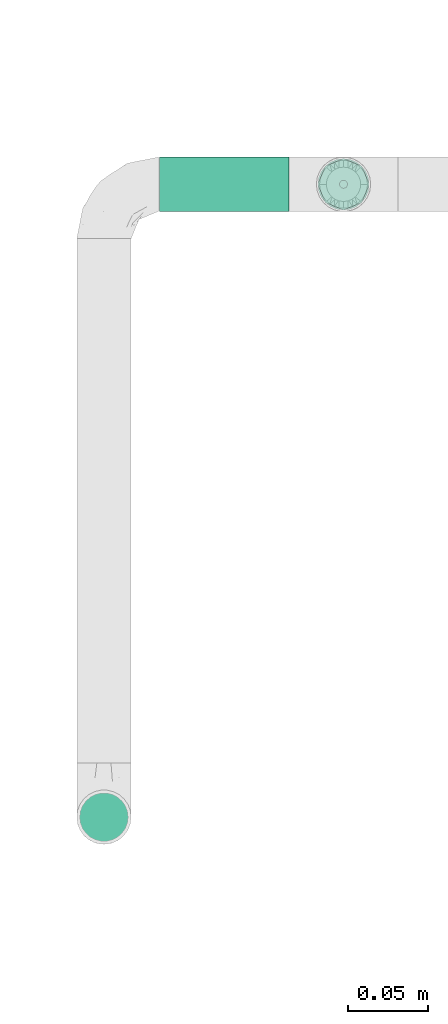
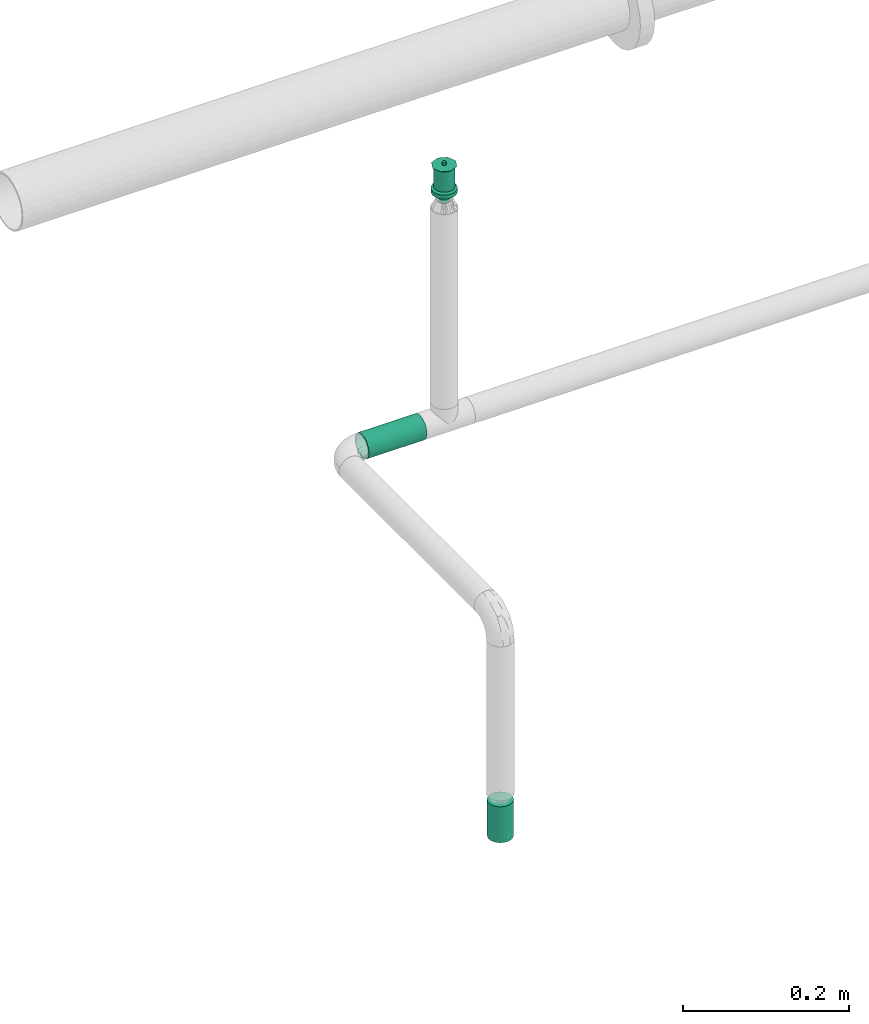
# One storey, part 105 of 157: 2 flow terminals, 1 flow segment.
"""IFC2X3 building model written with IfcOpenShell, lengths in millimetres."""

import ifcopenshell
import ifcopenshell.guid

model = None  # the IFC model being written
_history = None  # IfcOwnerHistory: only IFC2X3 demands one
_inside = {}  # id of a spatial element -> (the spatial element, [elements in it])
_under = {}  # id of a project, library or spatial element -> (it, [spatial elements below it])
_declared = {}  # id of a project -> (the project, [libraries it declares])
_typed = {}  # id of a type object -> (the type object, [elements of that type])
_made_of = {}  # id of a material, layer set ... -> (it, [elements and type objects made of it])


def new_model(schema):
    """Start an empty IFC model of exactly this schema.

    Asked for "IFC4X3", IfcOpenShell would pick the latest addendum, in which some entities
    have other attributes; the version numbers below select the first issue.
    IFC2X3 requires an IfcOwnerHistory on every rooted entity: one is made here for all.
    """
    global model, _history
    if schema == "IFC4X3":
        model = ifcopenshell.file(schema_version=(4, 3, 0, 0))
    else:
        model = ifcopenshell.file(schema=schema)
    _inside.clear()
    _under.clear()
    _declared.clear()
    _typed.clear()
    _made_of.clear()
    _history = None
    if model.schema == "IFC2X3":
        org = make("IfcOrganization", Name="unknown")
        user = make(
            "IfcPersonAndOrganization",
            ThePerson=make("IfcPerson", FamilyName="unknown"),
            TheOrganization=org,
        )
        app = make(
            "IfcApplication",
            ApplicationDeveloper=org,
            Version="unknown",
            ApplicationFullName="unknown",
            ApplicationIdentifier="unknown",
        )
        _history = make(
            "IfcOwnerHistory",
            OwningUser=user,
            OwningApplication=app,
            ChangeAction="ADDED",
            CreationDate=0,
        )
    return model


def make(cls, **values):
    """One entity of the class cls with the attributes given. An attribute that is None is left unset."""
    return model.create_entity(
        cls, **{name: value for name, value in values.items() if value is not None}
    )


def entity(cls, *values):
    """Any entity or typed value of the class cls, its attributes in the order of the schema. None: left unset."""
    e = model.create_entity(cls)
    for i, value in enumerate(values):
        if value is not None:
            e[i] = value
    return e


def rooted(cls, **values):
    """An entity with a GlobalId (a new one), such as an element, a storey or a relation."""
    return make(cls, GlobalId=ifcopenshell.guid.new(), OwnerHistory=_history, **values)


def si_unit(unit_type, name, prefix=None):
    """IfcSIUnit, for example si_unit("LENGTHUNIT", "METRE", prefix="MILLI")."""
    return make("IfcSIUnit", UnitType=unit_type, Prefix=prefix, Name=name)


def converted_unit(unit_type, name, factor, base, dimensions=None, offset=None):
    """IfcConversionBasedUnit, such as the inch: factor (a typed value) times the base unit."""
    return make(
        "IfcConversionBasedUnit"
        if offset is None
        else "IfcConversionBasedUnitWithOffset",
        ConversionOffset=offset,
        Dimensions=None
        if dimensions is None
        else entity("IfcDimensionalExponents", *dimensions),
        UnitType=unit_type,
        Name=name,
        ConversionFactor=make(
            "IfcMeasureWithUnit", ValueComponent=factor, UnitComponent=base
        ),
    )


def derived_unit(unit_type, elements):
    """IfcDerivedUnit: a product of units, each with its exponent."""
    return make(
        "IfcDerivedUnit",
        Elements=[
            make("IfcDerivedUnitElement", Unit=unit, Exponent=power)
            for unit, power in elements
        ],
        UnitType=unit_type,
    )


def assignment(units):
    """IfcUnitAssignment: the units of a project."""
    return None if units is None else make("IfcUnitAssignment", Units=units)


def point(xyz):
    """IfcCartesianPoint."""
    return None if xyz is None else make("IfcCartesianPoint", Coordinates=xyz)


def direction(xyz):
    """IfcDirection."""
    return None if xyz is None else make("IfcDirection", DirectionRatios=xyz)


def frame(location, z_axis=None, x_axis=None):
    """IfcAxis2Placement3D, a coordinate frame: its origin and axes. An axis left out is left unset."""
    return make(
        "IfcAxis2Placement3D",
        Location=point(location),
        Axis=direction(z_axis),
        RefDirection=direction(x_axis),
    )


def frame_2d(location, x_axis=None):
    """IfcAxis2Placement2D, a coordinate frame in the plane: its origin and x axis."""
    return make(
        "IfcAxis2Placement2D", Location=point(location), RefDirection=direction(x_axis)
    )


def origin_with_axes():
    """The frame at (0, 0, 0) with the z axis (0, 0, 1) and the x axis (1, 0, 0) written out."""
    return frame((0.0, 0.0, 0.0), z_axis=(0.0, 0.0, 1.0), x_axis=(1.0, 0.0, 0.0))


def origin_2d_with_axis():
    """The frame at (0, 0) in the plane with the x axis (1, 0) written out."""
    return frame_2d((0.0, 0.0), x_axis=(1.0, 0.0))


def place(relative_to, where):
    """IfcLocalPlacement: puts the frame where relative to a parent placement (None: the world)."""
    return make(
        "IfcLocalPlacement", PlacementRelTo=relative_to, RelativePlacement=where
    )


def context(
    kind, dimensions, precision=None, world=None, true_north=None, identifier=None
):
    """IfcGeometricRepresentationContext, for example the 3D "Model" context."""
    return make(
        "IfcGeometricRepresentationContext",
        ContextIdentifier=identifier,
        ContextType=kind,
        CoordinateSpaceDimension=dimensions,
        Precision=precision,
        WorldCoordinateSystem=world,
        TrueNorth=true_north,
    )


def subcontext(parent, identifier, kind, view, scale=None):
    """IfcGeometricRepresentationSubContext, for example "Body" below "Model"."""
    return make(
        "IfcGeometricRepresentationSubContext",
        ContextIdentifier=identifier,
        ContextType=kind,
        ParentContext=parent,
        TargetScale=scale,
        TargetView=view,
    )


def project(units=None, contexts=None):
    """IfcProject with its units and contexts."""
    return rooted(
        "IfcProject",
        Name="project",
        RepresentationContexts=contexts,
        UnitsInContext=assignment(units),
    )


def spatial(cls, under=None, at=None, **own):
    """A site, building, storey or space (cls), placed at a placement, below another one or the project."""
    s = rooted(cls, ObjectPlacement=at, **own)
    if under is not None:
        _under.setdefault(under.id(), (under, []))[1].append(s)
    return s


def profile(cls, at=None, kind="AREA", **sizes):
    """A parametric profile (cls). Its sizes go by their IFC names, for example OverallWidth=200.0."""
    return make(cls, ProfileType=kind, Position=at, **sizes)


def hollow_circle(**sizes):
    """IfcCircleHollowProfileDef."""
    return profile("IfcCircleHollowProfileDef", **sizes)


def extrude(swept, where, along, depth):
    """IfcExtrudedAreaSolid: the profile swept, set in the frame where, extruded along a direction by depth."""
    return make(
        "IfcExtrudedAreaSolid",
        SweptArea=swept,
        Position=where,
        ExtrudedDirection=direction(along),
        Depth=depth,
    )


def faces_of(points, faces, orient=None, outer=None):
    """IfcFace entities. A face is a list of loops; a loop is a list of indices into points, from 0.

    orient and outer hold one flag for each loop. By default every Orientation is true, the
    first loop of a face is its IfcFaceOuterBound and the others are IfcFaceBound.
    """
    made = []
    for i, loops in enumerate(faces):
        bounds = []
        for j, loop in enumerate(loops):
            is_outer = j == 0 if outer is None else outer[i][j]
            bounds.append(
                make(
                    "IfcFaceOuterBound" if is_outer else "IfcFaceBound",
                    Bound=make("IfcPolyLoop", Polygon=[points[k] for k in loop]),
                    Orientation=True if orient is None else orient[i][j],
                )
            )
        made.append(make("IfcFace", Bounds=bounds))
    return made


def open_shell(faces, orient=None, outer=None):
    """The faces of one IfcOpenShell. surface_model builds it on its shared points."""
    return ("IfcOpenShell", faces, orient, outer)


def surface_model(cls, points, shells):
    """IfcFaceBasedSurfaceModel or IfcShellBasedSurfaceModel (cls): surfaces that need not close."""
    shared = [point(p) for p in points]
    made = [make(c, CfsFaces=faces_of(shared, fs, o, b)) for c, fs, o, b in shells]
    if cls == "IfcFaceBasedSurfaceModel":
        return make(cls, FbsmFaces=made)
    return make(cls, SbsmBoundary=made)


def shape(context_of_items, identifier, shape_type, items):
    """IfcShapeRepresentation: the items that make up one representation, for example the "Body"."""
    return make(
        "IfcShapeRepresentation",
        ContextOfItems=context_of_items,
        RepresentationIdentifier=identifier,
        RepresentationType=shape_type,
        Items=items,
    )


def source(mapping_origin, context_of_items, identifier, shape_type, items):
    """IfcRepresentationMap: a shape defined once, which mapped items show again and again."""
    return make(
        "IfcRepresentationMap",
        MappingOrigin=mapping_origin,
        MappedRepresentation=shape(context_of_items, identifier, shape_type, items),
    )


def transform(
    local_origin,
    x_axis=None,
    y_axis=None,
    z_axis=None,
    scale=None,
    scale2=None,
    scale3=None,
    uniform=True,
):
    """IfcCartesianTransformationOperator3D, or its non-uniform kind. x_axis, y_axis, z_axis: its Axis1, 2, 3."""
    if uniform:
        return make(
            "IfcCartesianTransformationOperator3D",
            Axis1=direction(x_axis),
            Axis2=direction(y_axis),
            LocalOrigin=point(local_origin),
            Scale=scale,
            Axis3=direction(z_axis),
        )
    return make(
        "IfcCartesianTransformationOperator3DnonUniform",
        Axis1=direction(x_axis),
        Axis2=direction(y_axis),
        LocalOrigin=point(local_origin),
        Scale=scale,
        Axis3=direction(z_axis),
        Scale2=scale2,
        Scale3=scale3,
    )


def mapped(mapping_source, mapping_target):
    """IfcMappedItem: shows the shape of a source again, moved by a transform."""
    return make(
        "IfcMappedItem", MappingSource=mapping_source, MappingTarget=mapping_target
    )


def made_of(thing, what):
    """Note that an element or type object is made of a material, layer set ...; save() writes the relation."""
    if what is not None:
        _made_of.setdefault(what.id(), (what, []))[1].append(thing)
    return thing


def type_object(cls, material=None, **own):
    """A type object (cls), such as IfcWallType, which elements share."""
    return made_of(rooted(cls, **own), material)


def element(
    cls,
    number,
    at=None,
    inside=None,
    cuts=None,
    type_object=None,
    material=None,
    context=None,
    identifier="Body",
    shape_type=None,
    held_by="IfcProductDefinitionShape",
    body=None,
    shapes=None,
    **own,
):
    """One element of the class cls, such as IfcWall. Its Tag is "e" and its number.

    at: its placement. inside: the storey or other place that contains it. cuts: it is an
    opening in that element (IfcRelVoidsElement). A single representation is given by context,
    identifier, shape_type and body (its items); several are given by shapes. held_by: the class
    of the entity that holds the representations. save() writes the other relations.
    """
    e = rooted(cls, Tag="e%d" % number, ObjectPlacement=at, **own)
    if body is not None:
        shapes = [shape(context, identifier, shape_type, body)]
    if shapes is not None:
        e.Representation = make(held_by, Representations=shapes)
    if inside is not None:
        _inside.setdefault(inside.id(), (inside, []))[1].append(e)
    if cuts is not None:
        rooted(
            "IfcRelVoidsElement", RelatingBuildingElement=cuts, RelatedOpeningElement=e
        )
    if type_object is not None:
        _typed.setdefault(type_object.id(), (type_object, []))[1].append(e)
    return made_of(e, material)


def aggregate(whole, parts):
    """IfcRelAggregates: a whole, such as a stair, and the parts it consists of."""
    return rooted("IfcRelAggregates", RelatingObject=whole, RelatedObjects=parts)


def save(model, path):
    """Write the relations noted so far, then the file.

    IfcRelAggregates (storeys below a building ...), IfcRelContainedInSpatialStructure (elements
    in a storey), IfcRelDefinesByType, IfcRelAssociatesMaterial and IfcRelDeclares: one each for
    every whole, place, type object, material and project.
    """
    for whole, parts in _under.values():
        aggregate(whole, parts)
    for where, things in _inside.values():
        rooted(
            "IfcRelContainedInSpatialStructure",
            RelatedElements=things,
            RelatingStructure=where,
        )
    for kind, things in _typed.values():
        rooted("IfcRelDefinesByType", RelatedObjects=things, RelatingType=kind)
    for what, things in _made_of.values():
        rooted("IfcRelAssociatesMaterial", RelatedObjects=things, RelatingMaterial=what)
    for by, libraries in _declared.values():
        rooted("IfcRelDeclares", RelatingContext=by, RelatedDefinitions=libraries)
    model.write(path)


model = new_model("IFC2X3")

# Units and contexts
model_context = context("Model", 3, precision=0.01, world=frame((0.0, 4.29681676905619e-09, 0.0)), true_north=direction((4.01073788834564e-13, 1.0)))
plan_context = context("Plan", 3, precision=0.01, world=frame((0.0, 4.29681676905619e-09, 0.0)), true_north=direction((4.01073788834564e-13, 1.0)))
body_context = subcontext(model_context, "Body", "Model", "MODEL_VIEW")
ifc_project = project(units=[converted_unit("PLANEANGLEUNIT", "DEGREE", entity("IfcPositiveLengthMeasure", 0.0174532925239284), si_unit("PLANEANGLEUNIT", "RADIAN"), dimensions=[0, 0, 0, 0, 0, 0, 0]), si_unit("AREAUNIT", "SQUARE_METRE"), si_unit("LENGTHUNIT", "METRE", prefix="MILLI"), si_unit("MASSUNIT", "GRAM", prefix="KILO"), si_unit("POWERUNIT", "WATT"), si_unit("PRESSUREUNIT", "PASCAL"), si_unit("FORCEUNIT", "NEWTON", prefix="KILO"), si_unit("ELECTRICCURRENTUNIT", "AMPERE"), si_unit("THERMODYNAMICTEMPERATUREUNIT", "DEGREE_CELSIUS"), si_unit("TIMEUNIT", "SECOND"), si_unit("VOLUMEUNIT", "CUBIC_METRE"), derived_unit("LINEARVELOCITYUNIT", [(si_unit("LENGTHUNIT", "METRE"), 1), (si_unit("TIMEUNIT", "SECOND"), -1)]), derived_unit("VOLUMETRICFLOWRATEUNIT", [(si_unit("VOLUMEUNIT", "CUBIC_METRE"), 1), (si_unit("TIMEUNIT", "SECOND"), -1)]), derived_unit("THERMALTRANSMITTANCEUNIT", [(si_unit("POWERUNIT", "WATT"), 1), (si_unit("THERMODYNAMICTEMPERATUREUNIT", "KELVIN"), -1), (si_unit("AREAUNIT", "SQUARE_METRE"), -1)])], contexts=[model_context, plan_context])

# Site, building, storey
site_placement = place(None, frame((0.0, -4.29681676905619e-09, 0.0), z_axis=(0.0, 0.0, 1.0), x_axis=(1.0, 0.0, 0.0)))
site = spatial("IfcSite", under=ifc_project, at=site_placement, CompositionType="ELEMENT")
building_placement = place(site_placement, frame((0.0, 4.29681676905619e-09, 0.0), z_axis=(0.0, 0.0, 1.0), x_axis=(1.0, 0.0, 0.0)))
building = spatial("IfcBuilding", under=site, at=building_placement, Name="mc-building", CompositionType="ELEMENT")
storey_placement = place(building_placement, frame((0.0, 0.0, 204000.0), z_axis=(0.0, 0.0, 1.0), x_axis=(1.0, 0.0, 0.0)))
storey = spatial("IfcBuildingStorey", under=building, at=storey_placement, Name="Nivå D", CompositionType="ELEMENT", Elevation=204000.0)

# Flow segment
pipe_segment_type = type_object("IfcPipeSegmentType", Name="Stålrør normaltykke", PredefinedType="RIGIDSEGMENT")
shared_shape_1 = source(origin_with_axes(), body_context, "Body", "SweptSolid", [
    extrude(hollow_circle(Radius=16.9, WallThickness=2.0, at=origin_2d_with_axis()), frame((0.0, 0.0, 0.0), z_axis=(1.0, 0.0, 0.0), x_axis=(0.0, 1.0, 0.0)), (0.0, 0.0, 1.0), 80.8),
])
flow_segment_placement = place(storey_placement, frame((530006.55, 413380.00018, 2690.0), z_axis=(0.0, 0.0, 1.0), x_axis=(-1.0, 0.0, 0.0)))
element("IfcFlowSegment", 1, at=flow_segment_placement, inside=storey, type_object=pipe_segment_type, Name="Stålrør normaltykke", context=body_context, shape_type="MappedRepresentation", body=[
    mapped(shared_shape_1, transform((0.0, 0.0, 0.0), scale=1.0)),
])

# Flow terminals
fire_suppression_terminal_type_1 = type_object("IfcFireSuppressionTerminalType", Name="SP-15-K80-68DGR-STD-NEDOVER-TØRR", PredefinedType="NOTDEFINED")
shared_shape_2 = source(origin_with_axes(), body_context, "Body", "SurfaceModel", [
    surface_model("IfcShellBasedSurfaceModel", [(4.1411, -15.45481, 53.0), (8.0, -13.85641, 53.0), (11.31371, -11.31371, 53.0), (-8.0, -13.85641, 53.0), (15.45481, -4.1411, 53.0), (16.0, 0.0, 53.0), (13.85641, -8.0, 53.0), (0.0, -16.0, 53.0), (-4.1411, -15.45481, 53.0), (-13.85641, -8.0, 53.0), (-11.31371, -11.31371, 53.0), (-15.45481, -4.1411, 53.0), (15.45481, 4.1411, 53.0), (13.85641, 8.0, 53.0), (11.31371, 11.31371, 53.0), (-4.1411, 15.45481, 53.0), (8.0, 13.85641, 53.0), (4.1411, 15.45481, 53.0), (0.0, 16.0, 53.0), (-13.85641, 8.0, 53.0), (-15.45481, 4.1411, 53.0), (-16.0, 0.0, 53.0), (-11.31371, 11.31371, 53.0), (-8.0, 13.85641, 53.0), (0.0, 16.0, 0.0), (4.1411, 15.45481, 0.0), (8.0, 13.85641, 0.0), (-4.1411, 15.45481, 0.0), (11.31371, 11.31371, 0.0), (13.85641, 8.0, 0.0), (15.45481, 4.1411, 0.0), (-15.45481, -4.1411, 0.0), (-11.31371, 11.31371, 0.0), (-8.0, 13.85641, 0.0), (-13.85641, 8.0, 0.0), (-15.45481, 4.1411, 0.0), (-16.0, 0.0, 0.0), (4.1411, -15.45481, 0.0), (16.0, 0.0, 0.0), (15.45481, -4.1411, 0.0), (13.85641, -8.0, 0.0), (11.31371, -11.31371, 0.0), (8.0, -13.85641, 0.0), (-8.0, -13.85641, 0.0), (-13.85641, -8.0, 0.0), (-11.31371, -11.31371, 0.0), (0.0, -16.0, 0.0), (-4.1411, -15.45481, 0.0)], [open_shell([[[0, 1, 2]], [[3, 0, 2]], [[4, 5, 2]], [[4, 2, 6]], [[3, 2, 5]], [[7, 3, 8]], [[7, 0, 3]], [[3, 9, 10]], [[9, 3, 11]], [[5, 11, 3]], [[5, 12, 11]], [[12, 13, 14]], [[15, 12, 14]], [[16, 17, 18]], [[14, 16, 15]], [[18, 15, 16]], [[11, 19, 20]], [[21, 11, 20]], [[22, 15, 23]], [[15, 22, 19]], [[19, 11, 15]], [[11, 12, 15]], [[24, 25, 26]], [[27, 24, 26]], [[28, 29, 30]], [[27, 26, 28]], [[27, 28, 31]], [[27, 32, 33]], [[32, 27, 34]], [[34, 31, 35]], [[31, 34, 27]], [[35, 31, 36]], [[28, 30, 31]], [[37, 38, 39]], [[37, 39, 40]], [[41, 42, 37]], [[41, 37, 40]], [[38, 37, 43]], [[44, 43, 45]], [[43, 44, 31]], [[43, 46, 47]], [[43, 31, 38]], [[37, 46, 43]], [[38, 31, 30]], [[11, 31, 44]], [[45, 9, 44]], [[3, 43, 47]], [[45, 43, 10]], [[8, 47, 46]], [[31, 21, 36]], [[31, 11, 21]], [[44, 9, 11]], [[45, 10, 9]], [[3, 10, 43]], [[47, 8, 3]], [[46, 7, 8]], [[0, 37, 42]], [[41, 1, 42]], [[6, 40, 39]], [[41, 40, 2]], [[4, 39, 38]], [[37, 0, 7]], [[42, 1, 0]], [[41, 2, 1]], [[40, 6, 2]], [[4, 6, 39]], [[38, 5, 4]], [[37, 7, 46]], [[12, 38, 30]], [[13, 30, 29]], [[16, 26, 25]], [[17, 25, 24]], [[30, 13, 12]], [[12, 5, 38]], [[28, 14, 13]], [[28, 26, 14]], [[14, 26, 16]], [[25, 17, 16]], [[28, 13, 29]], [[24, 18, 17]], [[15, 27, 33]], [[32, 23, 33]], [[19, 34, 35]], [[32, 34, 22]], [[20, 35, 36]], [[27, 15, 18]], [[33, 23, 15]], [[32, 22, 23]], [[34, 19, 22]], [[20, 19, 35]], [[36, 21, 20]], [[27, 18, 24]]])]),
])
flow_terminal_1_placement = place(storey_placement, frame((529891.33339, 412986.41959, 2420.0), z_axis=(0.0, 0.0, -1.0), x_axis=(1.0, 0.0, 0.0)))
element("IfcFlowTerminal", 2, at=flow_terminal_1_placement, inside=storey, type_object=fire_suppression_terminal_type_1, Name="SP-15-K80-68DGR-STD-NEDOVER-TØRR", context=body_context, shape_type="MappedRepresentation", body=[
    mapped(shared_shape_2, transform((0.0, 0.0, 0.0), scale=1.0)),
])
fire_suppression_terminal_type_2 = type_object("IfcFireSuppressionTerminalType", Name="68DGR-STD-STÅENDE", PredefinedType="NOTDEFINED")
shared_shape_3 = source(origin_with_axes(), body_context, "Body", "SurfaceModel", [
    surface_model("IfcShellBasedSurfaceModel", [(3.36465, -12.55704, 51.0), (6.5, -11.25833, 51.0), (9.19239, -9.19239, 51.0), (12.55704, -3.36465, 51.0), (-11.25833, -6.5, 51.0), (11.25833, -6.5, 51.0), (-13.0, 0.0, 51.0), (0.0, -13.0, 51.0), (-6.5, -11.25833, 51.0), (-3.36465, -12.55704, 51.0), (-9.19239, -9.19239, 51.0), (-12.55704, -3.36465, 51.0), (13.0, 0.0, 51.0), (12.55704, 3.36465, 51.0), (11.25833, 6.5, 51.0), (9.19239, 9.19239, 51.0), (6.5, 11.25833, 51.0), (3.36465, 12.55704, 51.0), (0.0, 13.0, 51.0), (-3.36465, 12.55704, 51.0), (-12.55704, 3.36465, 51.0), (-9.19239, 9.19239, 51.0), (-11.25833, 6.5, 51.0), (-6.5, 11.25833, 51.0), (0.0, 13.0, 21.14766), (3.36465, 12.55704, 21.14766), (6.5, 11.25833, 21.14766), (-3.36465, 12.55704, 21.14766), (9.19239, 9.19239, 21.14766), (11.25833, 6.5, 21.14766), (12.55704, 3.36465, 21.14766), (-12.55704, 3.36465, 21.14766), (-11.25833, -6.5, 21.14766), (-9.19239, 9.19239, 21.14766), (-6.5, 11.25833, 21.14766), (-11.25833, 6.5, 21.14766), (-13.0, 0.0, 21.14766), (12.55704, -3.36465, 21.14766), (9.19239, -9.19239, 21.14766), (11.25833, -6.5, 21.14766), (6.5, -11.25833, 21.14766), (3.36465, -12.55704, 21.14766), (-6.5, -11.25833, 21.14766), (-9.19239, -9.19239, 21.14766), (-12.55704, -3.36465, 21.14766), (0.0, -13.0, 21.14766), (-3.36465, -12.55704, 21.14766), (13.0, 0.0, 21.14766), (7.24444, -1.94114, 0.1), (1.94114, -7.24444, 0.1), (3.75, -6.49519, 0.1), (5.3033, -5.3033, 0.1), (-5.3033, -5.3033, 0.1), (6.49519, -3.75, 0.1), (5.3033, 5.3033, 0.1), (0.0, -7.5, 0.1), (-3.75, -6.49519, 0.1), (-1.94114, -7.24444, 0.1), (-7.24444, -1.94114, 0.1), (-6.49519, -3.75, 0.1), (-7.24444, 1.94114, 0.1), (7.5, 0.0, 0.1), (6.49519, 3.75, 0.1), (-6.49519, 3.75, 0.1), (1.94114, 7.24444, 0.1), (0.0, 7.5, 0.1), (3.75, 6.49519, 0.1), (-7.5, 0.0, 0.1), (-5.3033, 5.3033, 0.1), (-1.94114, 7.24444, 0.1), (-3.75, 6.49519, 0.1), (7.24444, 1.94114, 0.1), (1.94114, 7.24444, -0.1), (-6.49519, 3.75, -0.1), (0.0, 7.5, -0.1), (5.3033, 5.3033, -0.1), (3.75, 6.49519, -0.1), (6.49519, 3.75, -0.1), (7.24444, 1.94114, -0.1), (-1.94114, 7.24444, -0.1), (-5.3033, 5.3033, -0.1), (-3.75, 6.49519, -0.1), (-7.24444, 1.94114, -0.1), (-7.24444, -1.94114, -0.1), (-7.5, 0.0, -0.1), (7.5, 0.0, -0.1), (7.24444, -1.94114, -0.1), (-5.3033, -5.3033, -0.1), (1.94114, -7.24444, -0.1), (6.49519, -3.75, -0.1), (5.3033, -5.3033, -0.1), (3.75, -6.49519, -0.1), (-6.49519, -3.75, -0.1), (-3.75, -6.49519, -0.1), (0.0, -7.5, -0.1), (-1.94114, -7.24444, -0.1), (0.0, -2.5, 51.0), (-2.5, 0.0, 51.0), (0.0, 2.5, 51.0), (2.5, 0.0, 51.0), (0.0, -16.0, 53.0), (11.31371, -11.31371, 53.0), (-11.31371, -11.31371, 53.0), (-16.0, 0.0, 53.0), (16.0, 0.0, 53.0), (11.31371, 11.31371, 53.0), (0.0, 16.0, 53.0), (-11.31371, 11.31371, 53.0), (1.25, -2.16506, 57.0), (0.0, -2.5, 57.0), (0.64705, -2.41481, 57.0), (2.41481, -0.64705, 57.0), (1.76777, -1.76777, 57.0), (-2.41481, -0.64705, 57.0), (-2.5, 0.0, 57.0), (2.16506, -1.25, 57.0), (-1.25, -2.16506, 57.0), (-0.64705, -2.41481, 57.0), (-1.76777, -1.76777, 57.0), (-2.16506, -1.25, 57.0), (2.5, 0.0, 57.0), (2.41481, 0.64705, 57.0), (2.16506, 1.25, 57.0), (1.76777, 1.76777, 57.0), (0.64705, 2.41481, 57.0), (1.25, 2.16506, 57.0), (-1.76777, 1.76777, 57.0), (0.0, 2.5, 57.0), (-2.16506, 1.25, 57.0), (-2.41481, 0.64705, 57.0), (-0.64705, 2.41481, 57.0), (-1.25, 2.16506, 57.0), (1.25, 2.16506, 51.0), (1.76777, 1.76777, 51.0), (1.15, 1.99186, 51.0), (0.59528, 2.22163, 51.0), (0.64705, 2.41481, 51.0), (0.0, 2.3, 51.0), (1.62635, 1.62635, 51.0), (2.41481, 0.64705, 51.0), (2.3, 0.0, 51.0), (2.22163, 0.59528, 51.0), (2.16506, 1.25, 51.0), (1.99186, 1.15, 51.0), (-0.59528, 2.22163, 51.0), (-0.64705, 2.41481, 51.0), (-1.15, 1.99186, 51.0), (-1.76777, 1.76777, 51.0), (-1.25, 2.16506, 51.0), (-1.62635, 1.62635, 51.0), (-1.99186, 1.15, 51.0), (-2.16506, 1.25, 51.0), (-2.22163, 0.59528, 51.0), (-2.41481, 0.64705, 51.0), (-2.3, 0.0, 51.0), (2.41481, -0.64705, 51.0), (2.22163, -0.59528, 51.0), (1.99186, -1.15, 51.0), (2.16506, -1.25, 51.0), (1.62635, -1.62635, 51.0), (1.76777, -1.76777, 51.0), (1.25, -2.16506, 51.0), (1.15, -1.99186, 51.0), (0.59528, -2.22163, 51.0), (0.64705, -2.41481, 51.0), (0.0, -2.3, 51.0), (-2.16506, -1.25, 51.0), (-1.99186, -1.15, 51.0), (-1.76777, -1.76777, 51.0), (-1.62635, -1.62635, 51.0), (-2.41481, -0.64705, 51.0), (-2.22163, -0.59528, 51.0), (-0.59528, -2.22163, 51.0), (-0.64705, -2.41481, 51.0), (-1.15, -1.99186, 51.0), (-1.25, -2.16506, 51.0), (1.62635, -1.62635, 56.8), (1.15, -1.99186, 56.8), (0.59528, -2.22163, 56.8), (0.0, -2.3, 56.8), (2.22163, 0.59528, 56.8), (1.99186, -1.15, 56.8), (2.22163, -0.59528, 56.8), (-0.59528, -2.22163, 56.8), (-1.15, -1.99186, 56.8), (-1.62635, -1.62635, 56.8), (-1.99186, -1.15, 56.8), (-2.22163, -0.59528, 56.8), (-1.99186, 1.15, 56.8), (2.3, 0.0, 56.8), (1.62635, 1.62635, 56.8), (1.99186, 1.15, 56.8), (1.15, 1.99186, 56.8), (0.0, 2.3, 56.8), (0.59528, 2.22163, 56.8), (-2.22163, 0.59528, 56.8), (-2.3, 0.0, 56.8), (-1.15, 1.99186, 56.8), (-0.59528, 2.22163, 56.8), (-1.62635, 1.62635, 56.8), (4.1411, -15.45481, 19.0), (8.0, -13.85641, 19.0), (11.31371, -11.31371, 19.0), (-8.0, -13.85641, 19.0), (15.45481, -4.1411, 19.0), (16.0, 0.0, 19.0), (13.85641, -8.0, 19.0), (0.0, -16.0, 19.0), (-4.1411, -15.45481, 19.0), (-13.85641, -8.0, 19.0), (-11.31371, -11.31371, 19.0), (-15.45481, -4.1411, 19.0), (15.45481, 4.1411, 19.0), (13.85641, 8.0, 19.0), (11.31371, 11.31371, 19.0), (-4.1411, 15.45481, 19.0), (8.0, 13.85641, 19.0), (4.1411, 15.45481, 19.0), (0.0, 16.0, 19.0), (-13.85641, 8.0, 19.0), (-15.45481, 4.1411, 19.0), (-16.0, 0.0, 19.0), (-11.31371, 11.31371, 19.0), (-8.0, 13.85641, 19.0), (0.0, 16.0, 13.0), (4.1411, 15.45481, 13.0), (8.0, 13.85641, 13.0), (-4.1411, 15.45481, 13.0), (11.31371, 11.31371, 13.0), (13.85641, 8.0, 13.0), (15.45481, 4.1411, 13.0), (-15.45481, -4.1411, 13.0), (-11.31371, 11.31371, 13.0), (-8.0, 13.85641, 13.0), (-13.85641, 8.0, 13.0), (-15.45481, 4.1411, 13.0), (-16.0, 0.0, 13.0), (4.1411, -15.45481, 13.0), (16.0, 0.0, 13.0), (15.45481, -4.1411, 13.0), (13.85641, -8.0, 13.0), (11.31371, -11.31371, 13.0), (8.0, -13.85641, 13.0), (-8.0, -13.85641, 13.0), (-13.85641, -8.0, 13.0), (-11.31371, -11.31371, 13.0), (0.0, -16.0, 13.0), (-4.1411, -15.45481, 13.0), (7.24444, -1.94114, 13.0), (1.94114, -7.24444, 13.0), (3.75, -6.49519, 13.0), (5.3033, -5.3033, 13.0), (-5.3033, -5.3033, 13.0), (6.49519, -3.75, 13.0), (5.3033, 5.3033, 13.0), (0.0, -7.5, 13.0), (-3.75, -6.49519, 13.0), (-1.94114, -7.24444, 13.0), (-7.24444, -1.94114, 13.0), (-6.49519, -3.75, 13.0), (-7.24444, 1.94114, 13.0), (7.5, 0.0, 13.0), (6.49519, 3.75, 13.0), (-6.49519, 3.75, 13.0), (1.94114, 7.24444, 13.0), (0.0, 7.5, 13.0), (3.75, 6.49519, 13.0), (-7.5, 0.0, 13.0), (-5.3033, 5.3033, 13.0), (-1.94114, 7.24444, 13.0), (-3.75, 6.49519, 13.0), (7.24444, 1.94114, 13.0), (3.75, 6.49519, 0.0), (5.3033, 5.3033, 0.0), (3.65, 6.32199, 0.0), (1.88938, 7.05126, 0.0), (0.0, 7.3, 0.0), (1.94114, 7.24444, 0.0), (0.0, 7.5, 0.0), (5.16188, 5.16188, 0.0), (7.24444, 1.94114, 0.0), (7.3, 0.0, 0.0), (7.05126, 1.88938, 0.0), (7.5, 0.0, 0.0), (6.49519, 3.75, 0.0), (6.32199, 3.65, 0.0), (-1.88938, 7.05126, 0.0), (-1.94114, 7.24444, 0.0), (-3.65, 6.32199, 0.0), (-5.3033, 5.3033, 0.0), (-3.75, 6.49519, 0.0), (-5.16188, 5.16188, 0.0), (-6.32199, 3.65, 0.0), (-6.49519, 3.75, 0.0), (-7.05126, 1.88938, 0.0), (-7.24444, 1.94114, 0.0), (-7.3, 0.0, 0.0), (-7.5, 0.0, 0.0), (7.24444, -1.94114, 0.0), (7.05126, -1.88938, 0.0), (6.32199, -3.65, 0.0), (6.49519, -3.75, 0.0), (5.16188, -5.16188, 0.0), (5.3033, -5.3033, 0.0), (3.75, -6.49519, 0.0), (3.65, -6.32199, 0.0), (1.88938, -7.05126, 0.0), (1.94114, -7.24444, 0.0), (0.0, -7.3, 0.0), (0.0, -7.5, 0.0), (-6.49519, -3.75, 0.0), (-6.32199, -3.65, 0.0), (-5.3033, -5.3033, 0.0), (-5.16188, -5.16188, 0.0), (-7.24444, -1.94114, 0.0), (-7.05126, -1.88938, 0.0), (-1.88938, -7.05126, 0.0), (-1.94114, -7.24444, 0.0), (-3.65, -6.32199, 0.0), (-3.75, -6.49519, 0.0), (1.88938, -7.05126, 12.8), (0.0, -7.3, 12.8), (3.65, -6.32199, 12.8), (5.16188, -5.16188, 12.8), (6.32199, -3.65, 12.8), (7.05126, 1.88938, 12.8), (7.05126, -1.88938, 12.8), (-5.16188, -5.16188, 12.8), (-1.88938, -7.05126, 12.8), (-3.65, -6.32199, 12.8), (-6.32199, -3.65, 12.8), (-7.05126, -1.88938, 12.8), (0.0, 7.3, 12.8), (7.3, 0.0, 12.8), (6.32199, 3.65, 12.8), (5.16188, 5.16188, 12.8), (3.65, 6.32199, 12.8), (1.88938, 7.05126, 12.8), (-6.32199, 3.65, 12.8), (-7.05126, 1.88938, 12.8), (-7.3, 0.0, 12.8), (-3.65, 6.32199, 12.8), (-1.88938, 7.05126, 12.8), (-5.16188, 5.16188, 12.8)], [open_shell([[[0, 1, 2]], [[0, 2, 3]], [[0, 3, 4]], [[3, 2, 5]], [[6, 4, 3]], [[7, 8, 9]], [[7, 0, 8]], [[8, 4, 10]], [[0, 4, 8]], [[4, 6, 11]], [[6, 3, 12]], [[13, 14, 15]], [[6, 13, 15]], [[16, 17, 18]], [[15, 16, 19]], [[18, 19, 16]], [[20, 21, 22]], [[20, 6, 15]], [[21, 19, 23]], [[19, 21, 20]], [[15, 19, 20]], [[13, 6, 12]], [[24, 25, 26]], [[27, 24, 26]], [[28, 29, 30]], [[26, 28, 31]], [[28, 32, 31]], [[27, 33, 34]], [[33, 27, 31]], [[33, 31, 35]], [[27, 26, 31]], [[31, 32, 36]], [[32, 28, 30]], [[32, 30, 37]], [[38, 37, 39]], [[38, 40, 41]], [[38, 41, 37]], [[32, 37, 41]], [[32, 42, 43]], [[44, 36, 32]], [[42, 45, 46]], [[42, 32, 41]], [[45, 42, 41]], [[30, 47, 37]], [[4, 32, 43]], [[8, 42, 46]], [[43, 42, 10]], [[9, 46, 45]], [[36, 11, 6]], [[11, 36, 44]], [[11, 44, 4]], [[44, 32, 4]], [[43, 10, 4]], [[8, 10, 42]], [[46, 9, 8]], [[45, 7, 9]], [[0, 41, 40]], [[38, 1, 40]], [[5, 39, 37]], [[38, 39, 2]], [[3, 37, 47]], [[41, 0, 7]], [[40, 1, 0]], [[38, 2, 1]], [[39, 5, 2]], [[3, 5, 37]], [[47, 12, 3]], [[41, 7, 45]], [[30, 13, 47]], [[29, 14, 30]], [[25, 24, 17]], [[15, 29, 28]], [[30, 14, 13]], [[13, 12, 47]], [[16, 26, 17]], [[16, 15, 28]], [[26, 25, 17]], [[15, 14, 29]], [[28, 26, 16]], [[24, 18, 17]], [[19, 27, 34]], [[33, 23, 34]], [[22, 35, 31]], [[33, 35, 21]], [[20, 31, 36]], [[27, 19, 18]], [[34, 23, 19]], [[33, 21, 23]], [[35, 22, 21]], [[20, 22, 31]], [[36, 6, 20]], [[27, 18, 24]], [[48, 49, 50]], [[48, 50, 51]], [[49, 48, 52]], [[48, 51, 53]], [[54, 52, 48]], [[55, 56, 57]], [[56, 55, 52]], [[52, 58, 59]], [[52, 55, 49]], [[52, 60, 58]], [[54, 48, 61]], [[62, 54, 61]], [[54, 63, 52]], [[64, 65, 54]], [[64, 54, 66]], [[63, 54, 65]], [[63, 60, 52]], [[67, 58, 60]], [[68, 69, 70]], [[69, 68, 63]], [[69, 63, 65]], [[71, 62, 61]], [[72, 73, 74]], [[75, 72, 76]], [[75, 77, 78]], [[72, 75, 73]], [[78, 73, 75]], [[79, 80, 81]], [[80, 79, 73]], [[74, 73, 79]], [[78, 82, 73]], [[82, 83, 84]], [[82, 78, 85]], [[86, 87, 85]], [[88, 86, 89]], [[90, 91, 88]], [[90, 88, 89]], [[87, 86, 88]], [[83, 87, 92]], [[83, 85, 87]], [[93, 94, 95]], [[94, 93, 87]], [[88, 94, 87]], [[85, 83, 82]], [[83, 58, 84]], [[92, 59, 83]], [[56, 87, 93]], [[92, 87, 52]], [[57, 93, 95]], [[83, 59, 58]], [[58, 67, 84]], [[57, 56, 93]], [[52, 87, 56]], [[52, 59, 92]], [[55, 57, 95]], [[95, 94, 55]], [[88, 49, 94]], [[91, 50, 88]], [[53, 90, 89]], [[91, 90, 51]], [[48, 89, 86]], [[91, 51, 50]], [[50, 49, 88]], [[61, 48, 86]], [[53, 89, 48]], [[53, 51, 90]], [[85, 61, 86]], [[94, 49, 55]], [[78, 71, 85]], [[77, 62, 78]], [[66, 75, 76]], [[77, 75, 54]], [[64, 76, 72]], [[78, 62, 71]], [[71, 61, 85]], [[64, 66, 76]], [[54, 75, 66]], [[54, 62, 77]], [[65, 64, 72]], [[72, 74, 65]], [[79, 69, 74]], [[81, 70, 79]], [[63, 80, 73]], [[81, 80, 68]], [[60, 73, 82]], [[81, 68, 70]], [[70, 69, 79]], [[67, 60, 82]], [[63, 73, 60]], [[63, 68, 80]], [[84, 67, 82]], [[74, 69, 65]], [[96, 97, 98]], [[98, 99, 96]], [[100, 101, 102]], [[103, 102, 101]], [[101, 104, 103]], [[104, 105, 106]], [[107, 103, 106]], [[106, 103, 104]], [[99, 98, 105]], [[105, 104, 99]], [[98, 106, 105]], [[98, 107, 106]], [[107, 98, 97]], [[103, 107, 97]], [[97, 96, 102]], [[102, 103, 97]], [[96, 100, 102]], [[96, 101, 100]], [[101, 96, 99]], [[104, 101, 99]], [[108, 109, 110]], [[111, 108, 112]], [[113, 108, 114]], [[111, 112, 115]], [[108, 111, 114]], [[109, 116, 117]], [[116, 109, 118]], [[118, 113, 119]], [[118, 109, 108]], [[108, 113, 118]], [[111, 120, 114]], [[121, 122, 123]], [[114, 121, 123]], [[114, 123, 124]], [[124, 123, 125]], [[126, 124, 127]], [[124, 128, 129]], [[129, 114, 124]], [[126, 130, 131]], [[128, 124, 126]], [[130, 126, 127]], [[121, 114, 120]], [[132, 133, 134]], [[132, 134, 135]], [[136, 135, 137]], [[135, 136, 132]], [[136, 137, 98]], [[134, 133, 138]], [[139, 140, 141]], [[140, 139, 99]], [[139, 141, 142]], [[138, 142, 143]], [[142, 138, 133]], [[143, 142, 141]], [[98, 144, 145]], [[98, 137, 144]], [[145, 144, 146]], [[147, 148, 149]], [[146, 148, 145]], [[149, 148, 146]], [[150, 151, 147]], [[151, 150, 152]], [[150, 147, 149]], [[153, 152, 154]], [[152, 153, 151]], [[153, 154, 97]], [[99, 155, 156]], [[156, 155, 157]], [[157, 158, 159]], [[158, 157, 155]], [[159, 158, 160]], [[160, 161, 162]], [[162, 161, 163]], [[163, 164, 165]], [[164, 163, 161]], [[165, 164, 96]], [[162, 159, 160]], [[166, 167, 168]], [[168, 167, 169]], [[167, 166, 170]], [[97, 171, 170]], [[170, 171, 167]], [[97, 154, 171]], [[172, 96, 173]], [[172, 173, 174]], [[169, 175, 168]], [[175, 169, 174]], [[175, 174, 173]], [[165, 96, 172]], [[156, 140, 99]], [[170, 113, 97]], [[166, 119, 170]], [[116, 168, 175]], [[166, 168, 118]], [[117, 175, 173]], [[170, 119, 113]], [[113, 114, 97]], [[117, 116, 175]], [[118, 168, 116]], [[118, 119, 166]], [[109, 117, 173]], [[173, 96, 109]], [[164, 110, 96]], [[161, 108, 164]], [[115, 160, 158]], [[161, 160, 112]], [[111, 158, 155]], [[161, 112, 108]], [[108, 110, 164]], [[120, 111, 155]], [[115, 158, 111]], [[115, 112, 160]], [[99, 120, 155]], [[96, 110, 109]], [[139, 121, 99]], [[142, 122, 139]], [[125, 133, 132]], [[142, 133, 123]], [[124, 132, 136]], [[139, 122, 121]], [[121, 120, 99]], [[124, 125, 132]], [[123, 133, 125]], [[123, 122, 142]], [[127, 124, 136]], [[136, 98, 127]], [[145, 130, 98]], [[148, 131, 145]], [[128, 147, 151]], [[148, 147, 126]], [[129, 151, 153]], [[148, 126, 131]], [[131, 130, 145]], [[114, 129, 153]], [[128, 151, 129]], [[128, 126, 147]], [[97, 114, 153]], [[98, 130, 127]], [[176, 177, 178]], [[176, 178, 179]], [[180, 176, 179]], [[181, 176, 182]], [[180, 182, 176]], [[183, 184, 179]], [[185, 179, 184]], [[186, 187, 185]], [[185, 187, 188]], [[179, 185, 188]], [[189, 182, 180]], [[190, 191, 180]], [[192, 190, 180]], [[193, 194, 192]], [[180, 193, 192]], [[188, 193, 180]], [[195, 188, 196]], [[196, 188, 187]], [[197, 198, 199]], [[188, 199, 198]], [[188, 198, 193]], [[180, 179, 188]], [[154, 187, 171]], [[171, 186, 167]], [[174, 169, 184]], [[185, 169, 167]], [[172, 174, 183]], [[187, 186, 171]], [[154, 196, 187]], [[174, 184, 183]], [[184, 169, 185]], [[167, 186, 185]], [[172, 183, 179]], [[179, 165, 172]], [[165, 178, 163]], [[163, 177, 162]], [[157, 159, 181]], [[176, 159, 162]], [[156, 157, 182]], [[177, 176, 162]], [[163, 178, 177]], [[156, 182, 189]], [[182, 157, 181]], [[159, 176, 181]], [[156, 189, 140]], [[179, 178, 165]], [[140, 180, 141]], [[141, 191, 143]], [[134, 138, 192]], [[190, 138, 143]], [[135, 134, 194]], [[180, 191, 141]], [[140, 189, 180]], [[134, 192, 194]], [[192, 138, 190]], [[143, 191, 190]], [[135, 194, 193]], [[193, 137, 135]], [[137, 198, 144]], [[144, 197, 146]], [[150, 149, 188]], [[199, 149, 146]], [[152, 150, 195]], [[197, 199, 146]], [[144, 198, 197]], [[152, 195, 196]], [[195, 150, 188]], [[149, 199, 188]], [[152, 196, 154]], [[193, 198, 137]], [[200, 201, 202]], [[203, 200, 202]], [[204, 205, 202]], [[204, 202, 206]], [[203, 202, 205]], [[207, 203, 208]], [[207, 200, 203]], [[203, 209, 210]], [[209, 203, 211]], [[205, 211, 203]], [[205, 212, 211]], [[212, 213, 214]], [[215, 212, 214]], [[216, 217, 218]], [[214, 216, 215]], [[218, 215, 216]], [[211, 219, 220]], [[221, 211, 220]], [[222, 215, 223]], [[215, 222, 219]], [[219, 211, 215]], [[211, 212, 215]], [[224, 225, 226]], [[227, 224, 226]], [[228, 229, 230]], [[227, 226, 228]], [[227, 228, 231]], [[227, 232, 233]], [[232, 227, 234]], [[234, 231, 235]], [[231, 234, 227]], [[235, 231, 236]], [[228, 230, 231]], [[237, 238, 239]], [[237, 239, 240]], [[241, 242, 237]], [[241, 237, 240]], [[238, 237, 243]], [[244, 243, 245]], [[243, 244, 231]], [[243, 246, 247]], [[243, 231, 238]], [[237, 246, 243]], [[238, 231, 230]], [[231, 211, 236]], [[244, 209, 231]], [[203, 245, 243]], [[244, 245, 210]], [[208, 243, 247]], [[231, 209, 211]], [[211, 221, 236]], [[208, 203, 243]], [[210, 245, 203]], [[210, 209, 244]], [[207, 208, 247]], [[247, 246, 207]], [[237, 200, 246]], [[242, 201, 237]], [[206, 241, 240]], [[242, 241, 202]], [[204, 240, 239]], [[242, 202, 201]], [[201, 200, 237]], [[205, 204, 239]], [[206, 240, 204]], [[206, 202, 241]], [[238, 205, 239]], [[246, 200, 207]], [[230, 212, 238]], [[229, 213, 230]], [[216, 228, 226]], [[229, 228, 214]], [[217, 226, 225]], [[230, 213, 212]], [[212, 205, 238]], [[217, 216, 226]], [[214, 228, 216]], [[214, 213, 229]], [[218, 217, 225]], [[225, 224, 218]], [[227, 215, 224]], [[233, 223, 227]], [[219, 232, 234]], [[233, 232, 222]], [[220, 234, 235]], [[233, 222, 223]], [[223, 215, 227]], [[221, 220, 235]], [[219, 234, 220]], [[219, 222, 232]], [[236, 221, 235]], [[224, 215, 218]], [[248, 249, 250]], [[248, 250, 251]], [[249, 248, 252]], [[248, 251, 253]], [[254, 252, 248]], [[255, 256, 257]], [[256, 255, 252]], [[252, 258, 259]], [[252, 255, 249]], [[252, 260, 258]], [[254, 248, 261]], [[262, 254, 261]], [[254, 263, 252]], [[264, 265, 254]], [[264, 254, 266]], [[263, 254, 265]], [[263, 260, 252]], [[267, 258, 260]], [[268, 269, 270]], [[269, 268, 263]], [[269, 263, 265]], [[271, 262, 261]], [[272, 273, 274]], [[272, 274, 275]], [[276, 277, 275]], [[277, 276, 278]], [[275, 277, 272]], [[274, 273, 279]], [[280, 281, 282]], [[281, 280, 283]], [[280, 282, 284]], [[279, 284, 285]], [[284, 279, 273]], [[285, 284, 282]], [[278, 286, 287]], [[287, 286, 288]], [[289, 290, 291]], [[288, 290, 287]], [[288, 291, 290]], [[278, 276, 286]], [[292, 293, 289]], [[293, 292, 294]], [[292, 289, 291]], [[295, 294, 296]], [[294, 295, 293]], [[295, 296, 297]], [[283, 298, 299]], [[299, 298, 300]], [[300, 301, 302]], [[301, 300, 298]], [[302, 301, 303]], [[303, 304, 305]], [[305, 304, 306]], [[306, 307, 308]], [[307, 306, 304]], [[308, 307, 309]], [[305, 302, 303]], [[310, 311, 312]], [[312, 311, 313]], [[311, 310, 314]], [[297, 315, 314]], [[314, 315, 311]], [[297, 296, 315]], [[316, 309, 317]], [[316, 317, 318]], [[313, 319, 312]], [[313, 318, 319]], [[319, 318, 317]], [[308, 309, 316]], [[299, 281, 283]], [[314, 258, 297]], [[310, 259, 314]], [[256, 312, 319]], [[310, 312, 252]], [[257, 319, 317]], [[314, 259, 258]], [[258, 267, 297]], [[257, 256, 319]], [[252, 312, 256]], [[252, 259, 310]], [[255, 257, 317]], [[317, 309, 255]], [[307, 249, 309]], [[304, 250, 307]], [[253, 303, 301]], [[304, 303, 251]], [[248, 301, 298]], [[304, 251, 250]], [[250, 249, 307]], [[261, 248, 298]], [[253, 301, 248]], [[253, 251, 303]], [[283, 261, 298]], [[309, 249, 255]], [[280, 271, 283]], [[284, 262, 280]], [[266, 273, 272]], [[284, 273, 254]], [[264, 272, 277]], [[280, 262, 271]], [[271, 261, 283]], [[264, 266, 272]], [[254, 273, 266]], [[254, 262, 284]], [[265, 264, 277]], [[277, 278, 265]], [[287, 269, 278]], [[290, 270, 287]], [[263, 289, 293]], [[290, 289, 268]], [[260, 293, 295]], [[290, 268, 270]], [[270, 269, 287]], [[267, 260, 295]], [[263, 293, 260]], [[263, 268, 289]], [[297, 267, 295]], [[278, 269, 265]], [[320, 321, 322]], [[323, 322, 324]], [[325, 326, 322]], [[324, 322, 326]], [[322, 327, 325]], [[328, 329, 321]], [[327, 321, 329]], [[330, 331, 327]], [[322, 321, 327]], [[331, 332, 327]], [[326, 325, 333]], [[334, 325, 332]], [[335, 334, 336]], [[332, 337, 336]], [[334, 332, 336]], [[331, 338, 332]], [[339, 338, 340]], [[340, 338, 331]], [[341, 342, 343]], [[332, 338, 343]], [[332, 343, 342]], [[332, 325, 327]], [[296, 331, 315]], [[315, 330, 311]], [[318, 313, 329]], [[327, 313, 311]], [[316, 318, 328]], [[331, 330, 315]], [[296, 340, 331]], [[318, 329, 328]], [[329, 313, 327]], [[311, 330, 327]], [[316, 328, 321]], [[321, 308, 316]], [[308, 320, 306]], [[306, 322, 305]], [[300, 302, 324]], [[323, 302, 305]], [[299, 300, 326]], [[322, 323, 305]], [[306, 320, 322]], [[299, 326, 333]], [[326, 300, 324]], [[302, 323, 324]], [[299, 333, 281]], [[321, 320, 308]], [[281, 325, 282]], [[282, 334, 285]], [[274, 279, 336]], [[335, 279, 285]], [[275, 274, 337]], [[325, 334, 282]], [[281, 333, 325]], [[274, 336, 337]], [[336, 279, 335]], [[285, 334, 335]], [[275, 337, 332]], [[332, 276, 275]], [[276, 342, 286]], [[286, 341, 288]], [[292, 291, 338]], [[343, 291, 288]], [[294, 292, 339]], [[341, 343, 288]], [[286, 342, 341]], [[294, 339, 340]], [[339, 292, 338]], [[291, 343, 338]], [[294, 340, 296]], [[332, 342, 276]]])]),
])
flow_terminal_2_placement = place(storey_placement, frame((530040.35, 413380.00018, 3011.5), z_axis=(0.0, 0.0, 1.0), x_axis=(1.0, 0.0, 0.0)))
element("IfcFlowTerminal", 3, at=flow_terminal_2_placement, inside=storey, type_object=fire_suppression_terminal_type_2, Name="68DGR-STD-STÅENDE", context=body_context, shape_type="MappedRepresentation", body=[
    mapped(shared_shape_3, transform((0.0, 0.0, 0.0), scale=1.0)),
])

save(model, "model.ifc")
